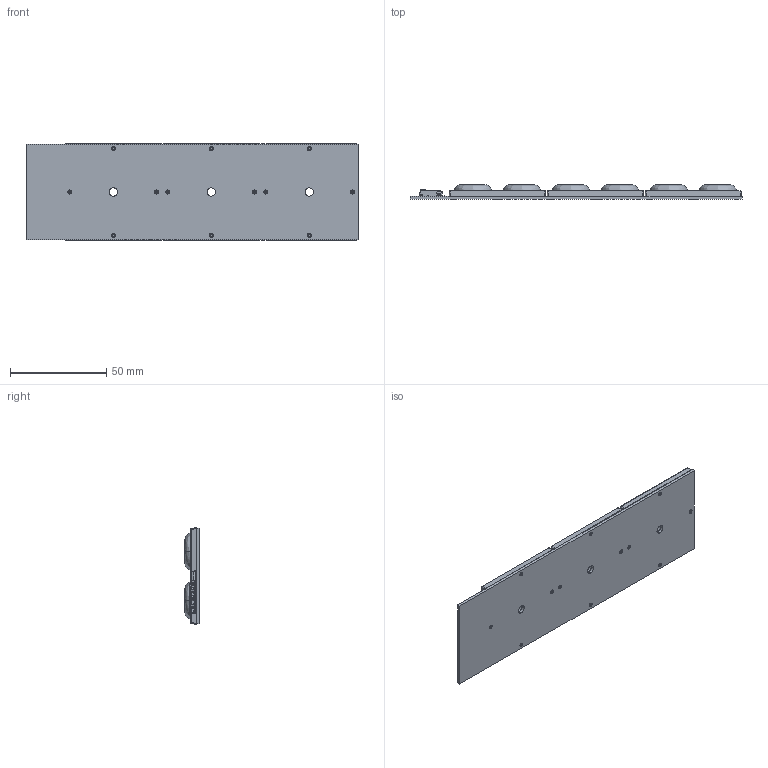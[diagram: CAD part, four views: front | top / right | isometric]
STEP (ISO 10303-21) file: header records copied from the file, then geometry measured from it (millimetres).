
FILE_DESCRIPTION (( 'STEP AP214' ), '1' );
FILE_NAME ('PCB WU-M-630_12 with Area.STEP', '2019-11-20T07:00:40', ( '' ), ( '' ), 'SwSTEP 2.0', 'SolidWorks 2017', '' );
FILE_SCHEMA (( 'AUTOMOTIVE_DESIGN' ));
Length unit declared in the file: millimetre
Products named in the file (11): PCB WU-M-630_12 with Area; RED-Area2x2Optics; DO214AC; Built-In LED Module-3mm; R0603; VSO-Logo-3mm; MCC-SMD-2P; LH508B; CE-Zeichen-3mm; PCB WU-M-630_12
Assembly tree (25 placements, depth 3):
  PCB WU-M-630_12 with Area
    PCB WU-M-630_12
      PCB WU-M-630_12
      LH508B  x12
      Built-In LED Module-3mm
      CE-Zeichen-3mm
      VSO-Logo-3mm
      MCC-SMD-2P  x2
      R0603  x2
      DO214AC
    RED-Area2x2Optics  x3
Bounding box: 172.2 x 7.4 x 50 mm (x, y, z)
Volume: 40568.6 mm3; surface area: 39034.3 mm2
Topology: 54 solids, 54 shells, 7253 faces, 20324 edges, 13360 vertices
Faces by surface type: plane 4830, bspline 1278, cylinder 798, cone 343, torus 4
Entity records: 159160 total; most frequent: CARTESIAN_POINT 61784, ORIENTED_EDGE 17598, DIRECTION 11741, EDGE_CURVE 8799, LINE 6003, VECTOR 6003, VERTEX_POINT 5779, EDGE_LOOP 3520
